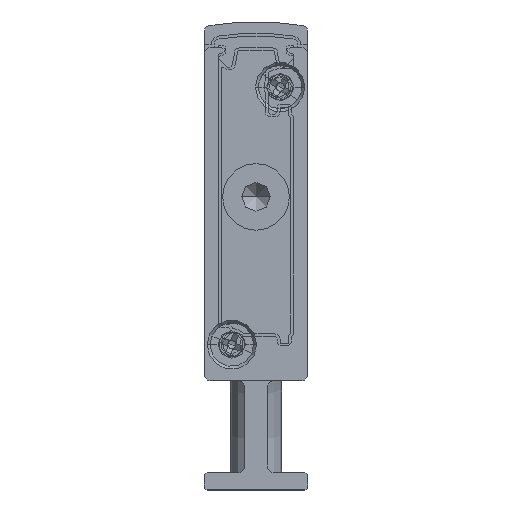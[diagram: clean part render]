
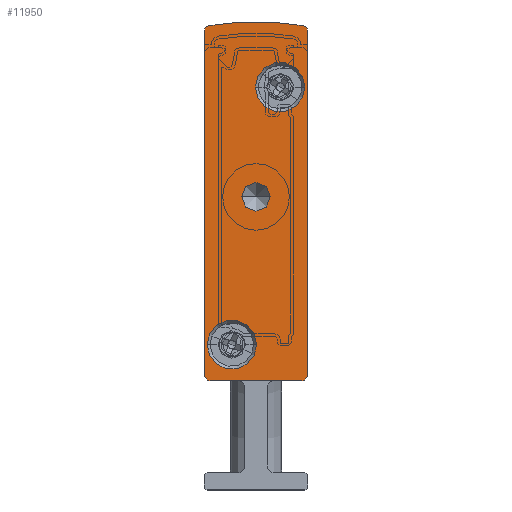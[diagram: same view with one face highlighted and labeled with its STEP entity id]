
A CAD part, front view. The second image highlights one B-rep face of the part: STEP entity #11950.
In plain terms, the highlighted planar face has unit normal (0, -1, 0).
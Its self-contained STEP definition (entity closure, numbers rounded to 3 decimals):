
#107 = VERTEX_POINT ( 'NONE', #1395 ) ;
#250 = VECTOR ( 'NONE', #6980, 1000. ) ;
#547 = DIRECTION ( 'NONE',  ( 0., -1., 0. ) ) ;
#606 = DIRECTION ( 'NONE',  ( 1., 0., 0. ) ) ;
#684 = CARTESIAN_POINT ( 'NONE',  ( 0., -2.5, 39.902 ) ) ;
#1062 = EDGE_CURVE ( 'NONE', #107, #11233, #9223, .T. ) ;
#1092 = ORIENTED_EDGE ( 'NONE', *, *, #3226, .F. ) ;
#1105 = VECTOR ( 'NONE', #17676, 1000. ) ;
#1150 = EDGE_CURVE ( 'NONE', #8620, #15074, #6593, .T. ) ;
#1264 = CARTESIAN_POINT ( 'NONE',  ( 9., -2.5, 10. ) ) ;
#1395 = CARTESIAN_POINT ( 'NONE',  ( 0., -2.5, 10. ) ) ;
#1429 = VERTEX_POINT ( 'NONE', #13813 ) ;
#2055 = CARTESIAN_POINT ( 'NONE',  ( 0.5, -2.5, 9.5 ) ) ;
#2168 = ORIENTED_EDGE ( 'NONE', *, *, #3709, .F. ) ;
#2192 = CARTESIAN_POINT ( 'NONE',  ( 0.25, -2.5, 12.65 ) ) ;
#2495 = FACE_BOUND ( 'NONE', #13053, .T. ) ;
#2551 = CARTESIAN_POINT ( 'NONE',  ( 9., -2.5, 39.902 ) ) ;
#2585 = VECTOR ( 'NONE', #7772, 1000. ) ;
#2606 = CIRCLE ( 'NONE', #13487, 1.25 ) ;
#2697 = ORIENTED_EDGE ( 'NONE', *, *, #5901, .F. ) ;
#2815 = VERTEX_POINT ( 'NONE', #1264 ) ;
#2864 = EDGE_LOOP ( 'NONE', ( #13206, #14067 ) ) ;
#2933 = VERTEX_POINT ( 'NONE', #10526 ) ;
#3040 = AXIS2_PLACEMENT_3D ( 'NONE', #14361, #8245, #16892 ) ;
#3226 = EDGE_CURVE ( 'NONE', #9499, #12564, #10307, .T. ) ;
#3290 = CIRCLE ( 'NONE', #19632, 2.15 ) ;
#3354 = VERTEX_POINT ( 'NONE', #13451 ) ;
#3699 = CARTESIAN_POINT ( 'NONE',  ( 8.5, -2.5, 39.902 ) ) ;
#3709 = EDGE_CURVE ( 'NONE', #15074, #11966, #13622, .T. ) ;
#3905 = CARTESIAN_POINT ( 'NONE',  ( 4.5, -2.5, 25.5 ) ) ;
#4602 = EDGE_CURVE ( 'NONE', #2815, #17874, #5919, .T. ) ;
#5029 = DIRECTION ( 'NONE',  ( 0., 1., 0. ) ) ;
#5105 = AXIS2_PLACEMENT_3D ( 'NONE', #10236, #10041, #13189 ) ;
#5688 = EDGE_CURVE ( 'NONE', #9411, #107, #14090, .T. ) ;
#5901 = EDGE_CURVE ( 'NONE', #11966, #2815, #13844, .T. ) ;
#5919 = CIRCLE ( 'NONE', #16384, 0.5 ) ;
#5932 = CIRCLE ( 'NONE', #15588, 0.5 ) ;
#6275 = ORIENTED_EDGE ( 'NONE', *, *, #18558, .F. ) ;
#6470 = ORIENTED_EDGE ( 'NONE', *, *, #10522, .T. ) ;
#6593 = CIRCLE ( 'NONE', #7384, 23.658 ) ;
#6844 = CARTESIAN_POINT ( 'NONE',  ( 8.592, -2.5, 40.393 ) ) ;
#6980 = DIRECTION ( 'NONE',  ( 0., 0., -1. ) ) ;
#7056 = DIRECTION ( 'NONE',  ( 0., 1., 0. ) ) ;
#7384 = AXIS2_PLACEMENT_3D ( 'NONE', #14681, #17868, #13422 ) ;
#7407 = DIRECTION ( 'NONE',  ( 0., -1., 0. ) ) ;
#7691 = DIRECTION ( 'NONE',  ( -1., 0., 0. ) ) ;
#7772 = DIRECTION ( 'NONE',  ( -1., 0., 0. ) ) ;
#8245 = DIRECTION ( 'NONE',  ( 0., 1., 0. ) ) ;
#8391 = DIRECTION ( 'NONE',  ( 0., 1., 0. ) ) ;
#8501 = EDGE_CURVE ( 'NONE', #3354, #1429, #14906, .T. ) ;
#8559 = PLANE ( 'NONE',  #12780 ) ;
#8620 = VERTEX_POINT ( 'NONE', #8652 ) ;
#8652 = CARTESIAN_POINT ( 'NONE',  ( 0.408, -2.5, 40.393 ) ) ;
#8886 = CARTESIAN_POINT ( 'NONE',  ( 0., -2.5, 39.902 ) ) ;
#8892 = ORIENTED_EDGE ( 'NONE', *, *, #14576, .F. ) ;
#9144 = CARTESIAN_POINT ( 'NONE',  ( 4.45, -2.5, 35.05 ) ) ;
#9223 = LINE ( 'NONE', #684, #1105 ) ;
#9373 = AXIS2_PLACEMENT_3D ( 'NONE', #14663, #7407, #13598 ) ;
#9411 = VERTEX_POINT ( 'NONE', #2055 ) ;
#9499 = VERTEX_POINT ( 'NONE', #2192 ) ;
#9662 = VERTEX_POINT ( 'NONE', #9144 ) ;
#9676 = CARTESIAN_POINT ( 'NONE',  ( 6.6, -2.5, 35.05 ) ) ;
#10041 = DIRECTION ( 'NONE',  ( 0., -1., 0. ) ) ;
#10089 = DIRECTION ( 'NONE',  ( -1., 0., 0. ) ) ;
#10236 = CARTESIAN_POINT ( 'NONE',  ( 2.4, -2.5, 12.65 ) ) ;
#10307 = CIRCLE ( 'NONE', #5105, 2.15 ) ;
#10377 = ORIENTED_EDGE ( 'NONE', *, *, #5688, .F. ) ;
#10522 = EDGE_CURVE ( 'NONE', #1429, #3354, #2606, .T. ) ;
#10526 = CARTESIAN_POINT ( 'NONE',  ( 8.75, -2.5, 35.05 ) ) ;
#10607 = FACE_OUTER_BOUND ( 'NONE', #16805, .T. ) ;
#10728 = AXIS2_PLACEMENT_3D ( 'NONE', #3699, #8391, #12915 ) ;
#10730 = CARTESIAN_POINT ( 'NONE',  ( 8.5, -2.5, 10. ) ) ;
#10849 = FACE_BOUND ( 'NONE', #2864, .T. ) ;
#10888 = ORIENTED_EDGE ( 'NONE', *, *, #4602, .F. ) ;
#11135 = CARTESIAN_POINT ( 'NONE',  ( 0.5, -2.5, 39.902 ) ) ;
#11233 = VERTEX_POINT ( 'NONE', #8886 ) ;
#11950 = ADVANCED_FACE ( 'NONE', ( #10849, #13968, #10607, #2495 ), #8559, .F. ) ;
#11966 = VERTEX_POINT ( 'NONE', #14415 ) ;
#12564 = VERTEX_POINT ( 'NONE', #18445 ) ;
#12606 = ORIENTED_EDGE ( 'NONE', *, *, #8501, .T. ) ;
#12780 = AXIS2_PLACEMENT_3D ( 'NONE', #15960, #19065, #12883 ) ;
#12883 = DIRECTION ( 'NONE',  ( -1., 0., 0. ) ) ;
#12915 = DIRECTION ( 'NONE',  ( -1., 0., 0. ) ) ;
#13053 = EDGE_LOOP ( 'NONE', ( #12606, #6470 ) ) ;
#13189 = DIRECTION ( 'NONE',  ( 1., 0., 0. ) ) ;
#13206 = ORIENTED_EDGE ( 'NONE', *, *, #14735, .F. ) ;
#13422 = DIRECTION ( 'NONE',  ( -1., 0., 0. ) ) ;
#13451 = CARTESIAN_POINT ( 'NONE',  ( 3.25, -2.5, 25.5 ) ) ;
#13487 = AXIS2_PLACEMENT_3D ( 'NONE', #3905, #7056, #17752 ) ;
#13491 = CARTESIAN_POINT ( 'NONE',  ( 8.5, -2.5, 9.5 ) ) ;
#13598 = DIRECTION ( 'NONE',  ( 1., 0., 0. ) ) ;
#13622 = CIRCLE ( 'NONE', #10728, 0.5 ) ;
#13813 = CARTESIAN_POINT ( 'NONE',  ( 5.75, -2.5, 25.5 ) ) ;
#13827 = EDGE_CURVE ( 'NONE', #12564, #9499, #16244, .T. ) ;
#13829 = CARTESIAN_POINT ( 'NONE',  ( 0.5, -2.5, 9.5 ) ) ;
#13844 = LINE ( 'NONE', #2551, #250 ) ;
#13968 = FACE_BOUND ( 'NONE', #18912, .T. ) ;
#14033 = ORIENTED_EDGE ( 'NONE', *, *, #1062, .F. ) ;
#14067 = ORIENTED_EDGE ( 'NONE', *, *, #16243, .F. ) ;
#14090 = CIRCLE ( 'NONE', #3040, 0.5 ) ;
#14361 = CARTESIAN_POINT ( 'NONE',  ( 0.5, -2.5, 10. ) ) ;
#14384 = CARTESIAN_POINT ( 'NONE',  ( 6.6, -2.5, 35.05 ) ) ;
#14415 = CARTESIAN_POINT ( 'NONE',  ( 9., -2.5, 39.902 ) ) ;
#14576 = EDGE_CURVE ( 'NONE', #17874, #9411, #17128, .T. ) ;
#14663 = CARTESIAN_POINT ( 'NONE',  ( 2.4, -2.5, 12.65 ) ) ;
#14681 = CARTESIAN_POINT ( 'NONE',  ( 4.5, -2.5, 17.092 ) ) ;
#14735 = EDGE_CURVE ( 'NONE', #2933, #9662, #3290, .T. ) ;
#14759 = DIRECTION ( 'NONE',  ( 0., 1., 0. ) ) ;
#14906 = CIRCLE ( 'NONE', #18762, 1.25 ) ;
#15074 = VERTEX_POINT ( 'NONE', #6844 ) ;
#15431 = DIRECTION ( 'NONE',  ( 0., 1., 0. ) ) ;
#15588 = AXIS2_PLACEMENT_3D ( 'NONE', #11135, #5029, #15908 ) ;
#15836 = AXIS2_PLACEMENT_3D ( 'NONE', #14384, #19247, #16060 ) ;
#15908 = DIRECTION ( 'NONE',  ( -1., 0., 0. ) ) ;
#15960 = CARTESIAN_POINT ( 'NONE',  ( 0.5, -2.5, 39.902 ) ) ;
#16010 = ORIENTED_EDGE ( 'NONE', *, *, #1150, .F. ) ;
#16060 = DIRECTION ( 'NONE',  ( 1., 0., 0. ) ) ;
#16243 = EDGE_CURVE ( 'NONE', #9662, #2933, #17715, .T. ) ;
#16244 = CIRCLE ( 'NONE', #9373, 2.15 ) ;
#16279 = ORIENTED_EDGE ( 'NONE', *, *, #13827, .F. ) ;
#16384 = AXIS2_PLACEMENT_3D ( 'NONE', #10730, #15431, #7691 ) ;
#16805 = EDGE_LOOP ( 'NONE', ( #6275, #14033, #10377, #8892, #10888, #2697, #2168, #16010 ) ) ;
#16892 = DIRECTION ( 'NONE',  ( -1., 0., 0. ) ) ;
#17128 = LINE ( 'NONE', #13829, #2585 ) ;
#17676 = DIRECTION ( 'NONE',  ( 0., 0., 1. ) ) ;
#17715 = CIRCLE ( 'NONE', #15836, 2.15 ) ;
#17752 = DIRECTION ( 'NONE',  ( -1., 0., 0. ) ) ;
#17809 = CARTESIAN_POINT ( 'NONE',  ( 4.5, -2.5, 25.5 ) ) ;
#17868 = DIRECTION ( 'NONE',  ( 0., 1., 0. ) ) ;
#17874 = VERTEX_POINT ( 'NONE', #13491 ) ;
#18445 = CARTESIAN_POINT ( 'NONE',  ( 4.55, -2.5, 12.65 ) ) ;
#18558 = EDGE_CURVE ( 'NONE', #11233, #8620, #5932, .T. ) ;
#18762 = AXIS2_PLACEMENT_3D ( 'NONE', #17809, #14759, #10089 ) ;
#18912 = EDGE_LOOP ( 'NONE', ( #16279, #1092 ) ) ;
#19065 = DIRECTION ( 'NONE',  ( 0., 1., 0. ) ) ;
#19247 = DIRECTION ( 'NONE',  ( 0., -1., 0. ) ) ;
#19632 = AXIS2_PLACEMENT_3D ( 'NONE', #9676, #547, #606 ) ;
